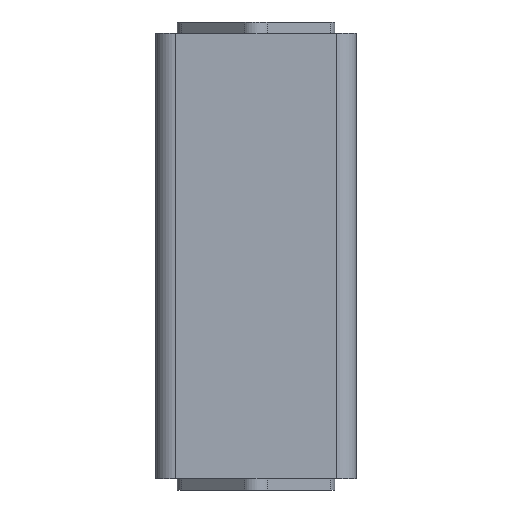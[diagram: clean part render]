
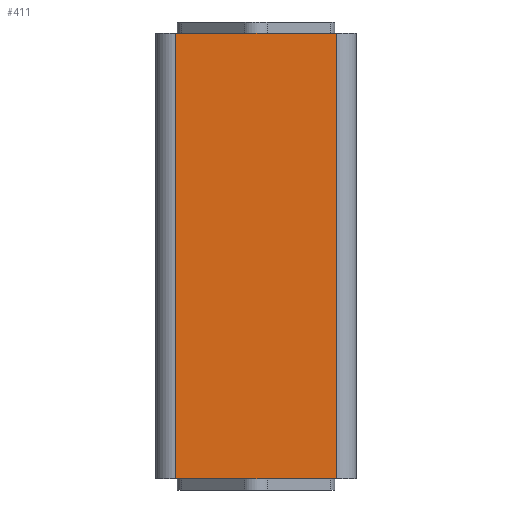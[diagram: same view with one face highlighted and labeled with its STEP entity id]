
A CAD part, front view. The second image highlights one B-rep face of the part: STEP entity #411.
In plain terms, the highlighted planar face has unit normal (0, -1, 0).
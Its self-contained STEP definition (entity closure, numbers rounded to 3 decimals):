
#346=CARTESIAN_POINT('',(18.,-22.5,100.0));
#347=VERTEX_POINT('',#346);
#355=CARTESIAN_POINT('',(18.,-22.5,0.0));
#356=VERTEX_POINT('',#355);
#357=CARTESIAN_POINT('',(18.,-22.5,0.0));
#358=DIRECTION('',(0.0,0.0,1.0));
#359=VECTOR('',#358,100.0);
#360=LINE('',#357,#359);
#361=EDGE_CURVE('',#356,#347,#360,.T.);
#381=CARTESIAN_POINT('',(18.,-22.5,0.0));
#382=DIRECTION('',(0.0,-1.0,0.0));
#383=DIRECTION('',(0.0,0.0,-1.0));
#384=AXIS2_PLACEMENT_3D('',#381,#382,#383);
#385=PLANE('',#384);
#386=CARTESIAN_POINT('',(-18.,-22.5,100.0));
#387=VERTEX_POINT('',#386);
#388=CARTESIAN_POINT('',(18.,-22.5,100.0));
#389=DIRECTION('',(-1.0,0.0,0.0));
#390=VECTOR('',#389,36.);
#391=LINE('',#388,#390);
#392=EDGE_CURVE('',#347,#387,#391,.T.);
#393=ORIENTED_EDGE('',*,*,#392,.T.);
#394=CARTESIAN_POINT('',(-18.,-22.5,0.0));
#395=VERTEX_POINT('',#394);
#396=CARTESIAN_POINT('',(-18.,-22.5,0.0));
#397=DIRECTION('',(0.0,0.0,1.0));
#398=VECTOR('',#397,100.0);
#399=LINE('',#396,#398);
#400=EDGE_CURVE('',#395,#387,#399,.T.);
#401=ORIENTED_EDGE('',*,*,#400,.F.);
#402=CARTESIAN_POINT('',(-18.,-22.5,0.0));
#403=DIRECTION('',(1.0,0.0,0.0));
#404=VECTOR('',#403,36.);
#405=LINE('',#402,#404);
#406=EDGE_CURVE('',#395,#356,#405,.T.);
#407=ORIENTED_EDGE('',*,*,#406,.T.);
#408=ORIENTED_EDGE('',*,*,#361,.T.);
#409=EDGE_LOOP('',(#393,#401,#407,#408));
#410=FACE_OUTER_BOUND('',#409,.T.);
#411=ADVANCED_FACE('',(#410),#385,.T.);
